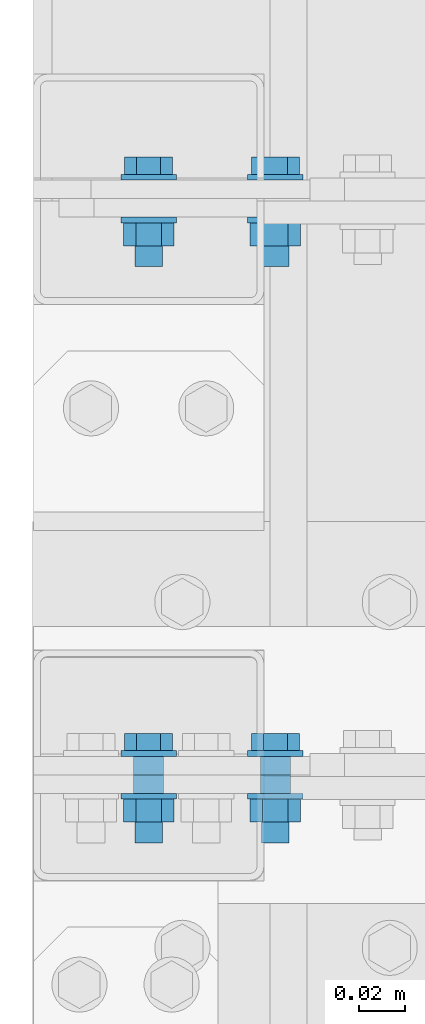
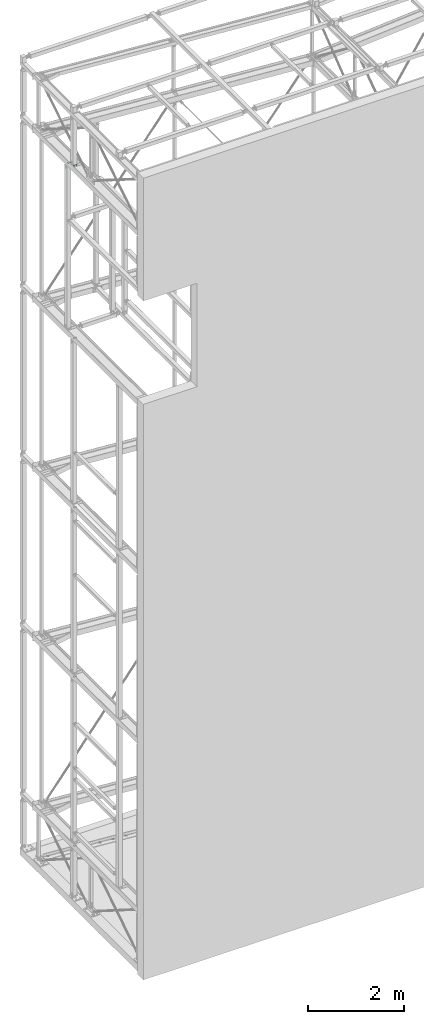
# One storey, part 219 of 271: 6 mechanical fasteners, 6 elements without a shape of their own.
"""IFC2X3 building model written with IfcOpenShell, lengths in millimetres."""

from ifc_helpers import new_model, si_unit, frame, frame_2d, origin_with_axes, origin_2d_with_axis, place, context, subcontext, project, spatial, polyline, circle_curve, parameter, trimmed, segment, composite_curve, circle, outline, extrude, source, transform, mapped, material, type_object, element, aggregate, save


model = new_model("IFC2X3")

# Units and contexts
model_context = context("Model", 3, precision=1e-05, world=origin_with_axes())
body_context = subcontext(model_context, "Body", "Model", "MODEL_VIEW")
ifc_project = project(units=[si_unit("LENGTHUNIT", "METRE", prefix="MILLI"), si_unit("AREAUNIT", "SQUARE_METRE"), si_unit("VOLUMEUNIT", "CUBIC_METRE"), si_unit("MASSUNIT", "GRAM", prefix="KILO"), si_unit("TIMEUNIT", "SECOND"), si_unit("PLANEANGLEUNIT", "RADIAN"), si_unit("SOLIDANGLEUNIT", "STERADIAN"), si_unit("THERMODYNAMICTEMPERATUREUNIT", "DEGREE_CELSIUS"), si_unit("LUMINOUSINTENSITYUNIT", "LUMEN")], contexts=[model_context])

# Site, building, storey
site_placement = place(None, origin_with_axes())
site = spatial("IfcSite", under=ifc_project, at=site_placement, Name="Undefined", CompositionType="ELEMENT")
building_placement = place(site_placement, origin_with_axes())
building = spatial("IfcBuilding", under=site, at=building_placement, Name="Undefined", CompositionType="ELEMENT")
storey_placement = place(building_placement, origin_with_axes())
storey = spatial("IfcBuildingStorey", under=building, at=storey_placement, Name="Undefined", CompositionType="ELEMENT", Elevation=0.0)

# Assembly, mechanical fastener
assembly_1_placement = place(storey_placement, origin_with_axes())
assembly_1 = element("IfcElementAssembly", 1, at=assembly_1_placement, inside=storey, AssemblyPlace="NOTDEFINED", PredefinedType="RIGID_FRAME")
ifc_material = material(Name="Undefined")
mechanical_fastener_type = type_object("IfcMechanicalFastenerType", Name="Bolt assembly")
shared_shape_1 = source(origin_with_axes(), body_context, "Body", "SweptSolid", [
    extrude(circle(Radius=6.5, at=origin_2d_with_axis()), frame((0.0, 7.89999999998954, 0.0), z_axis=(0.0, 1.0, 0.0), x_axis=(1.0, 0.0, 0.0)), (0.0, 0.0, 1.0), 8.1),
    extrude(outline(composite_curve([segment(polyline([(6.5, 13.5), (6.5, -13.5)]), True, "CONTINUOUS"), segment(trimmed(circle_curve(frame_2d((0.0, -13.5), x_axis=(1.0, 0.0)), 6.5), [parameter(0.0)], [parameter(3.14159265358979)], False, "PARAMETER"), True, "CONTINUOUS"), segment(polyline([(-6.5, -13.5), (-6.5, 13.5)]), True, "CONTINUOUS"), segment(trimmed(circle_curve(frame_2d((0.0, 13.5), x_axis=(-1.0, 0.0)), 6.5), [parameter(0.0)], [parameter(3.14159265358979)], False, "PARAMETER"), True, "DISCONTINUOUS")], self_intersect=False)), frame((0.0, 0.0999999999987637, 0.0), z_axis=(0.0, 1.0, 0.0), x_axis=(1.0, 0.0, 0.0)), (0.0, 0.0, 1.0), 8.0),
    extrude(outline(polyline([(10.39230484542, 0.0), (5.19615242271, 9.00000000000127), (-5.19615242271, 9.00000000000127), (-10.39230484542, 0.0), (-5.19615242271, -9.00000000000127), (5.19615242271, -9.00000000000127), (10.39230484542, 0.0)])), frame((0.0, -10.0, 0.0), z_axis=(0.0, 1.0, 0.0), x_axis=(1.0, 0.0, 0.0)), (0.0, 0.0, 1.0), 7.5),
    extrude(circle(Radius=6.0, at=origin_2d_with_axis()), frame((0.0, -2.50000000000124, 0.0), z_axis=(0.0, 1.0, 0.0), x_axis=(1.0, 0.0, 0.0)), (0.0, 0.0, 1.0), 40.0),
    extrude(circle(Radius=12.0, at=origin_2d_with_axis()), frame((0.0, -2.50000000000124, 0.0), z_axis=(0.0, 1.0, 0.0), x_axis=(1.0, 0.0, 0.0)), (0.0, 0.0, 1.0), 2.5),
    extrude(circle(Radius=12.0, at=origin_2d_with_axis()), frame((0.0, 16.0, 0.0), z_axis=(0.0, 1.0, 0.0), x_axis=(1.0, 0.0, 0.0)), (0.0, 0.0, 1.0), 2.5),
    extrude(outline(polyline([(10.96965511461, 0.0), (5.484827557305, 9.50000000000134), (-5.484827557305, 9.50000000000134), (-10.96965511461, 0.0), (-5.484827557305, -9.50000000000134), (5.484827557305, -9.50000000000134), (10.96965511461, 0.0)])), frame((0.0, 18.5, 0.0), z_axis=(0.0, 1.0, 0.0), x_axis=(1.0, 0.0, 0.0)), (0.0, 0.0, 1.0), 10.0),
])
mechanical_fastener_1_placement = place(assembly_1_placement, frame((38.3756870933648, 2803.05211980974, 18688.8499999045), z_axis=(0.0, 0.0, -1.0), x_axis=(1.0, 0.0, 0.0)))
mechanical_fastener_1 = element("IfcMechanicalFastener", 2, at=mechanical_fastener_1_placement, type_object=mechanical_fastener_type, material=ifc_material, Name="Bolt assembly", NominalDiameter=12.0, NominalLength=40.0, context=body_context, shape_type="MappedRepresentation", body=[
    mapped(shared_shape_1, transform((0.0, 0.0, 0.0))),
    mapped(shared_shape_1, transform((55.0, 0.0, 0.0))),
])
aggregate(assembly_1, [mechanical_fastener_1])

assembly_2_placement = place(storey_placement, origin_with_axes())
assembly_2 = element("IfcElementAssembly", 3, at=assembly_2_placement, inside=storey, AssemblyPlace="NOTDEFINED", PredefinedType="RIGID_FRAME")
shared_shape_2 = source(origin_with_axes(), body_context, "Body", "SweptSolid", [
    extrude(circle(Radius=6.5, at=origin_2d_with_axis()), frame((0.0, 7.89999999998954, 0.0), z_axis=(0.0, 1.0, 0.0), x_axis=(1.0, 0.0, 0.0)), (0.0, 0.0, 1.0), 8.1),
    extrude(outline(composite_curve([segment(polyline([(6.5, 13.5), (6.5, -13.5)]), True, "CONTINUOUS"), segment(trimmed(circle_curve(frame_2d((0.0, -13.5), x_axis=(1.0, 0.0)), 6.5), [parameter(0.0)], [parameter(3.14159265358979)], False, "PARAMETER"), True, "CONTINUOUS"), segment(polyline([(-6.5, -13.5), (-6.5, 13.5)]), True, "CONTINUOUS"), segment(trimmed(circle_curve(frame_2d((0.0, 13.5), x_axis=(-1.0, 0.0)), 6.5), [parameter(0.0)], [parameter(3.14159265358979)], False, "PARAMETER"), True, "DISCONTINUOUS")], self_intersect=False)), frame((0.0, 0.0999999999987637, 0.0), z_axis=(0.0, 1.0, 0.0), x_axis=(1.0, 0.0, 0.0)), (0.0, 0.0, 1.0), 8.0),
    extrude(outline(polyline([(10.39230484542, 0.0), (5.19615242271, 9.00000000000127), (-5.19615242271, 9.00000000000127), (-10.39230484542, 0.0), (-5.19615242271, -9.00000000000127), (5.19615242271, -9.00000000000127), (10.39230484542, 0.0)])), frame((0.0, -10.0, 0.0), z_axis=(0.0, 1.0, 0.0), x_axis=(1.0, 0.0, 0.0)), (0.0, 0.0, 1.0), 7.5),
    extrude(circle(Radius=6.0, at=origin_2d_with_axis()), frame((0.0, -2.50000000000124, 0.0), z_axis=(0.0, 1.0, 0.0), x_axis=(1.0, 0.0, 0.0)), (0.0, 0.0, 1.0), 40.0),
    extrude(circle(Radius=12.0, at=origin_2d_with_axis()), frame((0.0, -2.50000000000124, 0.0), z_axis=(0.0, 1.0, 0.0), x_axis=(1.0, 0.0, 0.0)), (0.0, 0.0, 1.0), 2.5),
    extrude(circle(Radius=12.0, at=origin_2d_with_axis()), frame((0.0, 16.0, 0.0), z_axis=(0.0, 1.0, 0.0), x_axis=(1.0, 0.0, 0.0)), (0.0, 0.0, 1.0), 2.5),
    extrude(outline(polyline([(10.96965511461, 0.0), (5.484827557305, 9.50000000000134), (-5.484827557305, 9.50000000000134), (-10.96965511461, 0.0), (-5.484827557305, -9.50000000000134), (5.484827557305, -9.50000000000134), (10.96965511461, 0.0)])), frame((0.0, 18.5, 0.0), z_axis=(0.0, 1.0, 0.0), x_axis=(1.0, 0.0, 0.0)), (0.0, 0.0, 1.0), 10.0),
])
mechanical_fastener_2_placement = place(assembly_2_placement, frame((38.3756870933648, 2803.05211980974, 1319.8499999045), z_axis=(0.0, 0.0, -1.0), x_axis=(1.0, 0.0, 0.0)))
mechanical_fastener_2 = element("IfcMechanicalFastener", 4, at=mechanical_fastener_2_placement, type_object=mechanical_fastener_type, material=ifc_material, Name="Bolt assembly", NominalDiameter=12.0, NominalLength=40.0, context=body_context, shape_type="MappedRepresentation", body=[
    mapped(shared_shape_2, transform((0.0, 0.0, 0.0))),
    mapped(shared_shape_2, transform((55.0, 0.0, 0.0))),
])
aggregate(assembly_2, [mechanical_fastener_2])

assembly_3_placement = place(storey_placement, origin_with_axes())
assembly_3 = element("IfcElementAssembly", 5, at=assembly_3_placement, inside=storey, AssemblyPlace="NOTDEFINED", PredefinedType="RIGID_FRAME")
shared_shape_3 = source(origin_with_axes(), body_context, "Body", "SweptSolid", [
    extrude(circle(Radius=6.5, at=origin_2d_with_axis()), frame((0.0, 7.89999999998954, 0.0), z_axis=(0.0, 1.0, 0.0), x_axis=(1.0, 0.0, 0.0)), (0.0, 0.0, 1.0), 8.1),
    extrude(outline(composite_curve([segment(polyline([(6.5, 13.5), (6.5, -13.5)]), True, "CONTINUOUS"), segment(trimmed(circle_curve(frame_2d((0.0, -13.5), x_axis=(1.0, 0.0)), 6.5), [parameter(0.0)], [parameter(3.14159265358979)], False, "PARAMETER"), True, "CONTINUOUS"), segment(polyline([(-6.5, -13.5), (-6.5, 13.5)]), True, "CONTINUOUS"), segment(trimmed(circle_curve(frame_2d((0.0, 13.5), x_axis=(-1.0, 0.0)), 6.5), [parameter(0.0)], [parameter(3.14159265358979)], False, "PARAMETER"), True, "DISCONTINUOUS")], self_intersect=False)), frame((0.0, 0.0999999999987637, 0.0), z_axis=(0.0, 1.0, 0.0), x_axis=(1.0, 0.0, 0.0)), (0.0, 0.0, 1.0), 8.0),
    extrude(outline(polyline([(10.39230484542, 0.0), (5.19615242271, 9.00000000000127), (-5.19615242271, 9.00000000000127), (-10.39230484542, 0.0), (-5.19615242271, -9.00000000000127), (5.19615242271, -9.00000000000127), (10.39230484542, 0.0)])), frame((0.0, -10.0, 0.0), z_axis=(0.0, 1.0, 0.0), x_axis=(1.0, 0.0, 0.0)), (0.0, 0.0, 1.0), 7.5),
    extrude(circle(Radius=6.0, at=origin_2d_with_axis()), frame((0.0, -2.50000000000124, 0.0), z_axis=(0.0, 1.0, 0.0), x_axis=(1.0, 0.0, 0.0)), (0.0, 0.0, 1.0), 40.0),
    extrude(circle(Radius=12.0, at=origin_2d_with_axis()), frame((0.0, -2.50000000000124, 0.0), z_axis=(0.0, 1.0, 0.0), x_axis=(1.0, 0.0, 0.0)), (0.0, 0.0, 1.0), 2.5),
    extrude(circle(Radius=12.0, at=origin_2d_with_axis()), frame((0.0, 16.0, 0.0), z_axis=(0.0, 1.0, 0.0), x_axis=(1.0, 0.0, 0.0)), (0.0, 0.0, 1.0), 2.5),
    extrude(outline(polyline([(10.96965511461, 0.0), (5.484827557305, 9.50000000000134), (-5.484827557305, 9.50000000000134), (-10.96965511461, 0.0), (-5.484827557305, -9.50000000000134), (5.484827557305, -9.50000000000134), (10.96965511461, 0.0)])), frame((0.0, 18.5, 0.0), z_axis=(0.0, 1.0, 0.0), x_axis=(1.0, 0.0, 0.0)), (0.0, 0.0, 1.0), 10.0),
])
mechanical_fastener_3_placement = place(assembly_3_placement, frame((38.3756870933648, 3053.05211980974, 18599.8499999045), z_axis=(0.0, 0.0, -1.0), x_axis=(1.0, 0.0, 0.0)))
mechanical_fastener_3 = element("IfcMechanicalFastener", 6, at=mechanical_fastener_3_placement, type_object=mechanical_fastener_type, material=ifc_material, Name="Bolt assembly", NominalDiameter=12.0, NominalLength=40.0, context=body_context, shape_type="MappedRepresentation", body=[
    mapped(shared_shape_3, transform((0.0, 0.0, 0.0))),
    mapped(shared_shape_3, transform((55.0, 0.0, 0.0))),
])
aggregate(assembly_3, [mechanical_fastener_3])

assembly_4_placement = place(storey_placement, origin_with_axes())
assembly_4 = element("IfcElementAssembly", 7, at=assembly_4_placement, inside=storey, AssemblyPlace="NOTDEFINED", PredefinedType="RIGID_FRAME")
shared_shape_4 = source(origin_with_axes(), body_context, "Body", "SweptSolid", [
    extrude(circle(Radius=6.5, at=origin_2d_with_axis()), frame((0.0, 7.89999999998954, 0.0), z_axis=(0.0, 1.0, 0.0), x_axis=(1.0, 0.0, 0.0)), (0.0, 0.0, 1.0), 8.1),
    extrude(outline(composite_curve([segment(polyline([(6.5, 13.5), (6.5, -13.5)]), True, "CONTINUOUS"), segment(trimmed(circle_curve(frame_2d((0.0, -13.5), x_axis=(1.0, 0.0)), 6.5), [parameter(0.0)], [parameter(3.14159265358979)], False, "PARAMETER"), True, "CONTINUOUS"), segment(polyline([(-6.5, -13.5), (-6.5, 13.5)]), True, "CONTINUOUS"), segment(trimmed(circle_curve(frame_2d((0.0, 13.5), x_axis=(-1.0, 0.0)), 6.5), [parameter(0.0)], [parameter(3.14159265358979)], False, "PARAMETER"), True, "DISCONTINUOUS")], self_intersect=False)), frame((0.0, 0.0999999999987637, 0.0), z_axis=(0.0, 1.0, 0.0), x_axis=(1.0, 0.0, 0.0)), (0.0, 0.0, 1.0), 8.0),
    extrude(outline(polyline([(10.39230484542, 0.0), (5.19615242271, 9.00000000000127), (-5.19615242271, 9.00000000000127), (-10.39230484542, 0.0), (-5.19615242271, -9.00000000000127), (5.19615242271, -9.00000000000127), (10.39230484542, 0.0)])), frame((0.0, -10.0, 0.0), z_axis=(0.0, 1.0, 0.0), x_axis=(1.0, 0.0, 0.0)), (0.0, 0.0, 1.0), 7.5),
    extrude(circle(Radius=6.0, at=origin_2d_with_axis()), frame((0.0, -2.50000000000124, 0.0), z_axis=(0.0, 1.0, 0.0), x_axis=(1.0, 0.0, 0.0)), (0.0, 0.0, 1.0), 40.0),
    extrude(circle(Radius=12.0, at=origin_2d_with_axis()), frame((0.0, -2.50000000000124, 0.0), z_axis=(0.0, 1.0, 0.0), x_axis=(1.0, 0.0, 0.0)), (0.0, 0.0, 1.0), 2.5),
    extrude(circle(Radius=12.0, at=origin_2d_with_axis()), frame((0.0, 16.0, 0.0), z_axis=(0.0, 1.0, 0.0), x_axis=(1.0, 0.0, 0.0)), (0.0, 0.0, 1.0), 2.5),
    extrude(outline(polyline([(10.96965511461, 0.0), (5.484827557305, 9.50000000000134), (-5.484827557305, 9.50000000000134), (-10.96965511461, 0.0), (-5.484827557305, -9.50000000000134), (5.484827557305, -9.50000000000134), (10.96965511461, 0.0)])), frame((0.0, 18.5, 0.0), z_axis=(0.0, 1.0, 0.0), x_axis=(1.0, 0.0, 0.0)), (0.0, 0.0, 1.0), 10.0),
])
mechanical_fastener_4_placement = place(assembly_4_placement, frame((38.3756870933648, 2803.05211980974, 14279.8499999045), z_axis=(0.0, 0.0, -1.0), x_axis=(1.0, 0.0, 0.0)))
mechanical_fastener_4 = element("IfcMechanicalFastener", 8, at=mechanical_fastener_4_placement, type_object=mechanical_fastener_type, material=ifc_material, Name="Bolt assembly", NominalDiameter=12.0, NominalLength=40.0, context=body_context, shape_type="MappedRepresentation", body=[
    mapped(shared_shape_4, transform((0.0, 0.0, 0.0))),
    mapped(shared_shape_4, transform((55.0, 0.0, 0.0))),
])
aggregate(assembly_4, [mechanical_fastener_4])

assembly_5_placement = place(storey_placement, origin_with_axes())
assembly_5 = element("IfcElementAssembly", 9, at=assembly_5_placement, inside=storey, AssemblyPlace="NOTDEFINED", PredefinedType="RIGID_FRAME")
shared_shape_5 = source(origin_with_axes(), body_context, "Body", "SweptSolid", [
    extrude(circle(Radius=6.5, at=origin_2d_with_axis()), frame((0.0, 7.89999999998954, 0.0), z_axis=(0.0, 1.0, 0.0), x_axis=(1.0, 0.0, 0.0)), (0.0, 0.0, 1.0), 8.1),
    extrude(outline(composite_curve([segment(polyline([(6.5, 13.5), (6.5, -13.5)]), True, "CONTINUOUS"), segment(trimmed(circle_curve(frame_2d((0.0, -13.5), x_axis=(1.0, 0.0)), 6.5), [parameter(0.0)], [parameter(3.14159265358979)], False, "PARAMETER"), True, "CONTINUOUS"), segment(polyline([(-6.5, -13.5), (-6.5, 13.5)]), True, "CONTINUOUS"), segment(trimmed(circle_curve(frame_2d((0.0, 13.5), x_axis=(-1.0, 0.0)), 6.5), [parameter(0.0)], [parameter(3.14159265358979)], False, "PARAMETER"), True, "DISCONTINUOUS")], self_intersect=False)), frame((0.0, 0.0999999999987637, 0.0), z_axis=(0.0, 1.0, 0.0), x_axis=(1.0, 0.0, 0.0)), (0.0, 0.0, 1.0), 8.0),
    extrude(outline(polyline([(10.39230484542, 0.0), (5.19615242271, 9.00000000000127), (-5.19615242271, 9.00000000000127), (-10.39230484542, 0.0), (-5.19615242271, -9.00000000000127), (5.19615242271, -9.00000000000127), (10.39230484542, 0.0)])), frame((0.0, -10.0, 0.0), z_axis=(0.0, 1.0, 0.0), x_axis=(1.0, 0.0, 0.0)), (0.0, 0.0, 1.0), 7.5),
    extrude(circle(Radius=6.0, at=origin_2d_with_axis()), frame((0.0, -2.50000000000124, 0.0), z_axis=(0.0, 1.0, 0.0), x_axis=(1.0, 0.0, 0.0)), (0.0, 0.0, 1.0), 40.0),
    extrude(circle(Radius=12.0, at=origin_2d_with_axis()), frame((0.0, -2.50000000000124, 0.0), z_axis=(0.0, 1.0, 0.0), x_axis=(1.0, 0.0, 0.0)), (0.0, 0.0, 1.0), 2.5),
    extrude(circle(Radius=12.0, at=origin_2d_with_axis()), frame((0.0, 16.0, 0.0), z_axis=(0.0, 1.0, 0.0), x_axis=(1.0, 0.0, 0.0)), (0.0, 0.0, 1.0), 2.5),
    extrude(outline(polyline([(10.96965511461, 0.0), (5.484827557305, 9.50000000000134), (-5.484827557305, 9.50000000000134), (-10.96965511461, 0.0), (-5.484827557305, -9.50000000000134), (5.484827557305, -9.50000000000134), (10.96965511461, 0.0)])), frame((0.0, 18.5, 0.0), z_axis=(0.0, 1.0, 0.0), x_axis=(1.0, 0.0, 0.0)), (0.0, 0.0, 1.0), 10.0),
])
mechanical_fastener_5_placement = place(assembly_5_placement, frame((38.3756870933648, 2803.05211980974, 9959.8499999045), z_axis=(0.0, 0.0, -1.0), x_axis=(1.0, 0.0, 0.0)))
mechanical_fastener_5 = element("IfcMechanicalFastener", 10, at=mechanical_fastener_5_placement, type_object=mechanical_fastener_type, material=ifc_material, Name="Bolt assembly", NominalDiameter=12.0, NominalLength=40.0, context=body_context, shape_type="MappedRepresentation", body=[
    mapped(shared_shape_5, transform((0.0, 0.0, 0.0))),
    mapped(shared_shape_5, transform((55.0, 0.0, 0.0))),
])
aggregate(assembly_5, [mechanical_fastener_5])

assembly_6_placement = place(storey_placement, origin_with_axes())
assembly_6 = element("IfcElementAssembly", 11, at=assembly_6_placement, inside=storey, AssemblyPlace="NOTDEFINED", PredefinedType="RIGID_FRAME")
shared_shape_6 = source(origin_with_axes(), body_context, "Body", "SweptSolid", [
    extrude(circle(Radius=6.5, at=origin_2d_with_axis()), frame((0.0, 7.89999999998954, 0.0), z_axis=(0.0, 1.0, 0.0), x_axis=(1.0, 0.0, 0.0)), (0.0, 0.0, 1.0), 8.1),
    extrude(outline(composite_curve([segment(polyline([(6.5, 13.5), (6.5, -13.5)]), True, "CONTINUOUS"), segment(trimmed(circle_curve(frame_2d((0.0, -13.5), x_axis=(1.0, 0.0)), 6.5), [parameter(0.0)], [parameter(3.14159265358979)], False, "PARAMETER"), True, "CONTINUOUS"), segment(polyline([(-6.5, -13.5), (-6.5, 13.5)]), True, "CONTINUOUS"), segment(trimmed(circle_curve(frame_2d((0.0, 13.5), x_axis=(-1.0, 0.0)), 6.5), [parameter(0.0)], [parameter(3.14159265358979)], False, "PARAMETER"), True, "DISCONTINUOUS")], self_intersect=False)), frame((0.0, 0.0999999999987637, 0.0), z_axis=(0.0, 1.0, 0.0), x_axis=(1.0, 0.0, 0.0)), (0.0, 0.0, 1.0), 8.0),
    extrude(outline(polyline([(10.39230484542, 0.0), (5.19615242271, 9.00000000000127), (-5.19615242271, 9.00000000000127), (-10.39230484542, 0.0), (-5.19615242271, -9.00000000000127), (5.19615242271, -9.00000000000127), (10.39230484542, 0.0)])), frame((0.0, -10.0, 0.0), z_axis=(0.0, 1.0, 0.0), x_axis=(1.0, 0.0, 0.0)), (0.0, 0.0, 1.0), 7.5),
    extrude(circle(Radius=6.0, at=origin_2d_with_axis()), frame((0.0, -2.50000000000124, 0.0), z_axis=(0.0, 1.0, 0.0), x_axis=(1.0, 0.0, 0.0)), (0.0, 0.0, 1.0), 40.0),
    extrude(circle(Radius=12.0, at=origin_2d_with_axis()), frame((0.0, -2.50000000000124, 0.0), z_axis=(0.0, 1.0, 0.0), x_axis=(1.0, 0.0, 0.0)), (0.0, 0.0, 1.0), 2.5),
    extrude(circle(Radius=12.0, at=origin_2d_with_axis()), frame((0.0, 16.0, 0.0), z_axis=(0.0, 1.0, 0.0), x_axis=(1.0, 0.0, 0.0)), (0.0, 0.0, 1.0), 2.5),
    extrude(outline(polyline([(10.96965511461, 0.0), (5.484827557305, 9.50000000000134), (-5.484827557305, 9.50000000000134), (-10.96965511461, 0.0), (-5.484827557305, -9.50000000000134), (5.484827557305, -9.50000000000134), (10.96965511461, 0.0)])), frame((0.0, 18.5, 0.0), z_axis=(0.0, 1.0, 0.0), x_axis=(1.0, 0.0, 0.0)), (0.0, 0.0, 1.0), 10.0),
])
mechanical_fastener_6_placement = place(assembly_6_placement, frame((38.3756870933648, 2803.05211980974, 5639.8499999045), z_axis=(0.0, 0.0, -1.0), x_axis=(1.0, 0.0, 0.0)))
mechanical_fastener_6 = element("IfcMechanicalFastener", 12, at=mechanical_fastener_6_placement, type_object=mechanical_fastener_type, material=ifc_material, Name="Bolt assembly", NominalDiameter=12.0, NominalLength=40.0, context=body_context, shape_type="MappedRepresentation", body=[
    mapped(shared_shape_6, transform((0.0, 0.0, 0.0))),
    mapped(shared_shape_6, transform((55.0, 0.0, 0.0))),
])
aggregate(assembly_6, [mechanical_fastener_6])

save(model, "model.ifc")
